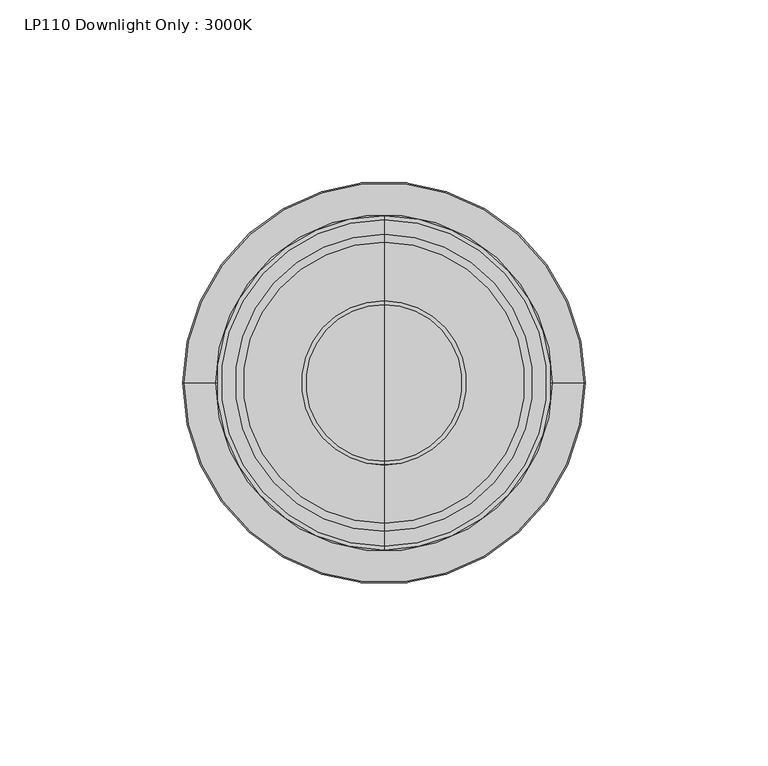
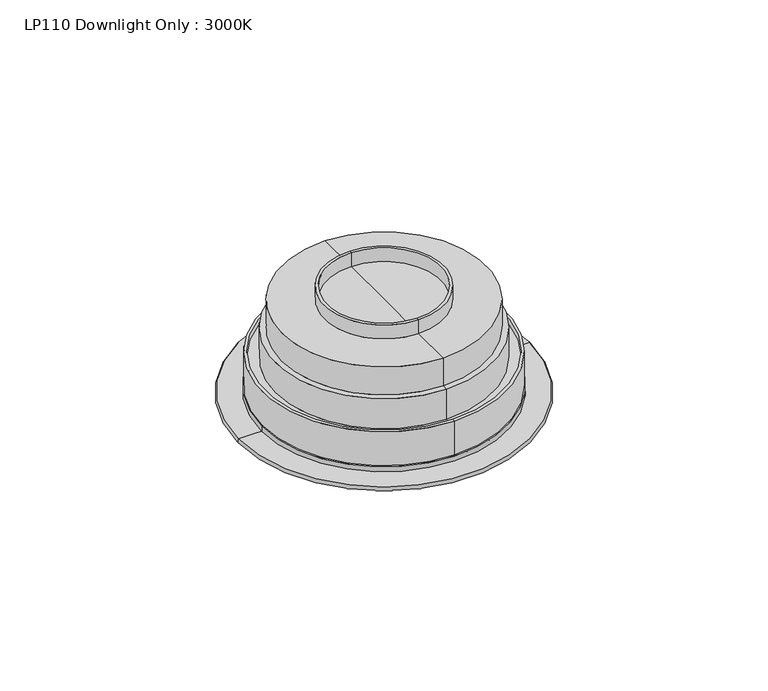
"""IFC4 building model written with IfcOpenShell, lengths in millimetres: light fixture geometry, LP110 Downlight Only : 3000K."""

from ifc_helpers import new_model, si_unit, point, frame, frame_2d, origin, place, context, project, spatial, polyline, circle_curve, ellipse_curve, trimmed, segment, composite_curve, outline, extrude, source, transform, mapped, element, save
from ifc_brep_helpers import plane_surface, cylinder_surface, revolved_surface, advanced_brep


def lp110_downlight_only_3000k_c44f5da2(model_context):
    return source(origin(), model_context, "Body", "SolidModel", [
        advanced_brep(
        [(-29.2658904, 0.0, 4000.0), (29.2658904, 0.0, 4000.0), (29.2658904, 0.0, 3994.9814753), (-29.2658904, 0.0, 3994.9814753), (0.0, 0.0, 4000.0), (-28.5744152, 0.0, 3994.29), (28.5744152, 0.0, 3994.29), (0.0, 0.0, 3994.29)],
        [
            (0, 1, circle_curve(frame((0.0, 0.0, 4000.0), z_axis=(0.0, 0.0, -1.0), x_axis=(1.0, 0.0, 0.0)), 29.2658904)),
            (1, 2),
            (2, 3, circle_curve(frame((0.0, 0.0, 3994.9814753), z_axis=(0.0, 0.0, 1.0), x_axis=(1.0, 0.0, 0.0)), 29.2658904)),
            (3, 0),
            (1, 0, circle_curve(frame((0.0, 0.0, 4000.0), z_axis=(0.0, 0.0, -1.0), x_axis=(1.0, 0.0, 0.0)), 29.2658904)),
            (3, 2, circle_curve(frame((0.0, 0.0, 3994.9814753), z_axis=(0.0, 0.0, 1.0), x_axis=(1.0, 0.0, 0.0)), 29.2658904)),
            (4, 1),
            (0, 4),
            (5, 6, circle_curve(frame((0.0, 0.0, 3994.29), z_axis=(0.0, 0.0, -1.0), x_axis=(1.0, 0.0, 0.0)), 28.5744152)),
            (6, 7),
            (7, 5),
            (6, 5, circle_curve(frame((0.0, 0.0, 3994.29), z_axis=(0.0, 0.0, -1.0), x_axis=(1.0, 0.0, 0.0)), 28.5744152)),
            (2, 6, circle_curve(frame((28.5744152, 0.0, 3994.9814753), z_axis=(0.0, 1.0, 0.0), x_axis=(1.0, 0.0, 0.0)), 0.6914753)),
            (5, 3, circle_curve(frame((-28.5744152, 0.0, 3994.9814753), z_axis=(0.0, 1.0, 0.0), x_axis=(-1.0, 0.0, 0.0)), 0.6914753)),
        ],
        [
            cylinder_surface(frame((0.0, 0.0, 4324.4347907), z_axis=(0.0, 0.0, 1.0), x_axis=(1.0, 0.0, 0.0)), 29.2658904),
            plane_surface(frame((0.0, 0.0, 4000.0), z_axis=(0.0, 0.0, 1.0), x_axis=(1.0, 0.0, 0.0))),
            plane_surface(frame((0.0, 0.0, 3994.29), z_axis=(0.0, 0.0, -1.0), x_axis=(1.0, 0.0, 0.0))),
            revolved_surface(trimmed(ellipse_curve(frame((28.5744152, 0.0, 3994.9814753), z_axis=(0.0, -1.0, 0.0), x_axis=(1.0, 0.0, 0.0)), 0.6914753, 0.6914753), [point((28.5744152, 0.0, 3994.29))], [point((29.2658904, 0.0, 3994.9814753))], True, "CARTESIAN"), (0.0, 0.0, 4324.4347907), (0.0, 0.0, 1.0)),
        ],
        [
            (0, [[1, 2, 3, 4]]),
            (0, [[5, -4, 6, -2]]),
            (1, [[7, -1, 8]]),
            (1, [[-8, -5, -7]]),
            (2, [[9, 10, 11]]),
            (2, [[12, -11, -10]]),
            (3, [[-3, 13, -9, 14]]),
            (3, [[-6, -14, -12, -13]]),
        ],
    ),
        extrude(outline(composite_curve([segment(trimmed(circle_curve(frame_2d((0.153956, -0.1564231)), 40.0), [point((-39.846044, -0.1564231))], [point((40.153956, -0.1564231))], False, "CARTESIAN"), True, "CONTINUOUS"), segment(trimmed(circle_curve(frame_2d((0.153956, -0.1564231)), 40.0), [point((40.153956, -0.1564231))], [point((-39.846044, -0.1564231))], False, "CARTESIAN"), True, "CONTINUOUS")], self_intersect=False), holes=[composite_curve([segment(trimmed(circle_curve(frame_2d((0.153956, -0.1564231)), 29.1123547), [point((-28.9583987, -0.1564231))], [point((29.2663107, -0.1564231))], True, "CARTESIAN"), True, "CONTINUOUS"), segment(trimmed(circle_curve(frame_2d((0.153956, -0.1564231)), 29.1123547), [point((29.2663107, -0.1564231))], [point((-28.9583987, -0.1564231))], True, "CARTESIAN"), True, "CONTINUOUS")], self_intersect=False)]), frame((0.0, 0.0, 3994.29), z_axis=(0.0, 0.0, 1.0), x_axis=(1.0, 0.0, 0.0)), (0.0, 0.0, 1.0), 0.5),
        advanced_brep(
        [(-46.0, 0.0, 4000.0), (46.0, 0.0, 4000.0), (0.0, 0.0, 4000.0), (-46.0, 0.0, 4001.88), (46.0, 0.0, 4001.88), (0.0, 0.0, 4001.88)],
        [
            (0, 1, circle_curve(frame((0.0, 0.0, 4000.0), z_axis=(0.0, 0.0, -1.0), x_axis=(1.0, 0.0, 0.0)), 46.0)),
            (1, 2),
            (2, 0),
            (1, 0, circle_curve(frame((0.0, 0.0, 4000.0), z_axis=(0.0, 0.0, -1.0), x_axis=(1.0, 0.0, 0.0)), 46.0)),
            (3, 4, circle_curve(frame((0.0, 0.0, 4001.88), z_axis=(0.0, 0.0, -1.0), x_axis=(1.0, 0.0, 0.0)), 46.0)),
            (4, 1),
            (0, 3),
            (4, 3, circle_curve(frame((0.0, 0.0, 4001.88), z_axis=(0.0, 0.0, -1.0), x_axis=(1.0, 0.0, 0.0)), 46.0)),
            (5, 4),
            (3, 5),
        ],
        [
            plane_surface(frame((0.0, 0.0, 4000.0), z_axis=(0.0, 0.0, -1.0), x_axis=(1.0, 0.0, 0.0))),
            cylinder_surface(frame((0.0, 0.0, 3993.7591953), z_axis=(0.0, 0.0, 1.0), x_axis=(1.0, 0.0, 0.0)), 46.0),
            plane_surface(frame((0.0, 0.0, 4001.88), z_axis=(0.0, 0.0, 1.0), x_axis=(1.0, 0.0, 0.0))),
        ],
        [
            (0, [[1, 2, 3]]),
            (0, [[4, -3, -2]]),
            (1, [[5, 6, -1, 7]]),
            (1, [[8, -7, -4, -6]]),
            (2, [[9, -5, 10]]),
            (2, [[-10, -8, -9]]),
        ],
    ),
        advanced_brep(
        [(-54.4320431, 0.0, 3998.2898924), (54.4320431, 0.0, 3998.2898924), (47.8497028, 0.0, 3994.79), (-47.8497028, 0.0, 3994.79), (-54.7151231, 0.0, 4000.0), (54.7151231, 0.0, 4000.0), (-26.7465724, 0.0, 4000.0), (26.7465724, 0.0, 4000.0), (26.7465724, 0.0, 3994.79), (-26.7465724, 0.0, 3994.79)],
        [
            (0, 1, circle_curve(frame((0.0, 0.0, 3998.2898924), z_axis=(0.0, 0.0, -1.0), x_axis=(1.0, 0.0, 0.0)), 54.4320431)),
            (1, 2),
            (2, 3, circle_curve(frame((0.0, 0.0, 3994.79), z_axis=(0.0, 0.0, 1.0), x_axis=(1.0, 0.0, 0.0)), 47.8497028)),
            (3, 0),
            (1, 0, circle_curve(frame((0.0, 0.0, 3998.2898924), z_axis=(0.0, 0.0, -1.0), x_axis=(1.0, 0.0, 0.0)), 54.4320431)),
            (3, 2, circle_curve(frame((0.0, 0.0, 3994.79), z_axis=(0.0, 0.0, 1.0), x_axis=(1.0, 0.0, 0.0)), 47.8497028)),
            (4, 5, circle_curve(frame((0.0, 0.0, 4000.0), z_axis=(0.0, 0.0, -1.0), x_axis=(1.0, 0.0, 0.0)), 54.7151231)),
            (5, 1, circle_curve(frame((53.9198655, 0.0, 3999.2531583), z_axis=(0.0, 1.0, 0.0), x_axis=(1.0, 0.0, 0.0)), 1.0909661)),
            (0, 4, circle_curve(frame((-53.9198655, 0.0, 3999.2531583), z_axis=(0.0, 1.0, 0.0), x_axis=(-1.0, 0.0, 0.0)), 1.0909661)),
            (5, 4, circle_curve(frame((0.0, 0.0, 4000.0), z_axis=(0.0, 0.0, -1.0), x_axis=(1.0, 0.0, 0.0)), 54.7151231)),
            (6, 7, circle_curve(frame((0.0, 0.0, 4000.0), z_axis=(0.0, 0.0, -1.0), x_axis=(1.0, 0.0, 0.0)), 26.7465724)),
            (7, 5),
            (4, 6),
            (7, 6, circle_curve(frame((0.0, 0.0, 4000.0), z_axis=(0.0, 0.0, -1.0), x_axis=(1.0, 0.0, 0.0)), 26.7465724)),
            (2, 8),
            (8, 9, circle_curve(frame((0.0, 0.0, 3994.79), z_axis=(0.0, 0.0, 1.0), x_axis=(1.0, 0.0, 0.0)), 26.7465724)),
            (9, 3),
            (9, 8, circle_curve(frame((0.0, 0.0, 3994.79), z_axis=(0.0, 0.0, 1.0), x_axis=(1.0, 0.0, 0.0)), 26.7465724)),
            (8, 7),
            (6, 9),
        ],
        [
            revolved_surface(polyline([(47.8497028, 0.0, 3994.79), (54.4320431, 0.0, 3998.2898924)]), (0.0, 0.0, 4324.4347907), (0.0, 0.0, 1.0)),
            revolved_surface(trimmed(ellipse_curve(frame((53.9198655, 0.0, 3999.2531583), z_axis=(0.0, -1.0, 0.0), x_axis=(1.0, 0.0, 0.0)), 1.0909661, 1.0909661), [point((54.4320431, 0.0, 3998.2898924))], [point((54.7151231, 0.0, 4000.0))], True, "CARTESIAN"), (0.0, 0.0, 4324.4347907), (0.0, 0.0, 1.0)),
            plane_surface(frame((0.0, 0.0, 4000.0), z_axis=(0.0, 0.0, 1.0), x_axis=(1.0, 0.0, 0.0))),
            plane_surface(frame((0.0, 0.0, 3994.79), z_axis=(0.0, 0.0, -1.0), x_axis=(1.0, 0.0, 0.0))),
            revolved_surface(polyline([(26.7465724, 0.0, 4000.0), (26.7465724, 0.0, 3994.79)]), (0.0, 0.0, 4324.4347907), (0.0, 0.0, 1.0)),
        ],
        [
            (0, [[1, 2, 3, 4]]),
            (0, [[5, -4, 6, -2]]),
            (1, [[7, 8, -1, 9]]),
            (1, [[10, -9, -5, -8]]),
            (2, [[11, 12, -7, 13]]),
            (2, [[14, -13, -10, -12]]),
            (3, [[-3, 15, 16, 17]]),
            (3, [[-6, -17, 18, -15]]),
            (4, [[-16, 19, -11, 20]]),
            (4, [[-18, -20, -14, -19]]),
        ],
    ),
        advanced_brep(
        [(0.0, 38.41986, 4025.2200055), (0.0, -38.41986, 4025.2200055), (0.0, -38.41986, 4036.27), (0.0, 38.41986, 4036.27), (0.0, 40.6278014, 4025.2200055), (0.0, -40.6278014, 4025.2200055), (0.0, 40.6278014, 4013.3214017), (0.0, -40.6278014, 4013.3214017), (0.0, 44.6302193, 4013.3214017), (0.0, -44.6302193, 4013.3214017), (0.0, 44.6302193, 4015.63), (0.0, -44.6302193, 4015.63), (0.0, 45.6921331, 4015.63), (0.0, -45.6921331, 4015.63), (0.0, 45.6921331, 4000.0), (0.0, -45.6921331, 4000.0), (0.0, 0.0, 4000.0), (0.0, -22.4510975, 4036.27), (0.0, 22.4510975, 4036.27), (0.0, 21.4345521, 4036.27), (0.0, -21.4345521, 4036.27), (0.0, 0.0, 4036.27), (0.0, 21.4345521, 4041.77), (0.0, -21.4345521, 4041.77), (0.0, 22.4510975, 4041.77), (0.0, -22.4510975, 4041.77)],
        [
            (0, 1, circle_curve(frame((0.0, 0.0, 4025.2200055), z_axis=(0.0, 0.0, 1.0), x_axis=(0.0, -1.0, 0.0)), 38.41986)),
            (1, 2),
            (2, 3, circle_curve(frame((0.0, 0.0, 4036.27), z_axis=(0.0, 0.0, -1.0), x_axis=(0.0, -1.0, 0.0)), 38.41986)),
            (3, 0),
            (1, 0, circle_curve(frame((0.0, 0.0, 4025.2200055), z_axis=(0.0, 0.0, 1.0), x_axis=(0.0, -1.0, 0.0)), 38.41986)),
            (3, 2, circle_curve(frame((0.0, 0.0, 4036.27), z_axis=(0.0, 0.0, -1.0), x_axis=(0.0, -1.0, 0.0)), 38.41986)),
            (4, 5, circle_curve(frame((0.0, 0.0, 4025.2200055), z_axis=(0.0, 0.0, 1.0), x_axis=(0.0, -1.0, 0.0)), 40.6278014)),
            (5, 1),
            (0, 4),
            (5, 4, circle_curve(frame((0.0, 0.0, 4025.2200055), z_axis=(0.0, 0.0, 1.0), x_axis=(0.0, -1.0, 0.0)), 40.6278014)),
            (6, 7, circle_curve(frame((0.0, 0.0, 4013.3214017), z_axis=(0.0, 0.0, 1.0), x_axis=(0.0, -1.0, 0.0)), 40.6278014)),
            (7, 5),
            (4, 6),
            (7, 6, circle_curve(frame((0.0, 0.0, 4013.3214017), z_axis=(0.0, 0.0, 1.0), x_axis=(0.0, -1.0, 0.0)), 40.6278014)),
            (8, 9, circle_curve(frame((0.0, 0.0, 4013.3214017), z_axis=(0.0, 0.0, 1.0), x_axis=(0.0, -1.0, 0.0)), 44.6302193)),
            (9, 7),
            (6, 8),
            (9, 8, circle_curve(frame((0.0, 0.0, 4013.3214017), z_axis=(0.0, 0.0, 1.0), x_axis=(0.0, -1.0, 0.0)), 44.6302193)),
            (10, 11, circle_curve(frame((0.0, 0.0, 4015.63), z_axis=(0.0, 0.0, 1.0), x_axis=(0.0, -1.0, 0.0)), 44.6302193)),
            (11, 9),
            (8, 10),
            (11, 10, circle_curve(frame((0.0, 0.0, 4015.63), z_axis=(0.0, 0.0, 1.0), x_axis=(0.0, -1.0, 0.0)), 44.6302193)),
            (12, 13, circle_curve(frame((0.0, 0.0, 4015.63), z_axis=(0.0, 0.0, 1.0), x_axis=(0.0, -1.0, 0.0)), 45.6921331)),
            (13, 11),
            (10, 12),
            (13, 12, circle_curve(frame((0.0, 0.0, 4015.63), z_axis=(0.0, 0.0, 1.0), x_axis=(0.0, -1.0, 0.0)), 45.6921331)),
            (14, 15, circle_curve(frame((0.0, 0.0, 4000.0), z_axis=(0.0, 0.0, 1.0), x_axis=(0.0, -1.0, 0.0)), 45.6921331)),
            (15, 13),
            (12, 14),
            (15, 14, circle_curve(frame((0.0, 0.0, 4000.0), z_axis=(0.0, 0.0, 1.0), x_axis=(0.0, -1.0, 0.0)), 45.6921331)),
            (16, 15),
            (14, 16),
            (2, 17),
            (17, 18, circle_curve(frame((0.0, 0.0, 4036.27), z_axis=(0.0, 0.0, -1.0), x_axis=(0.0, -1.0, 0.0)), 22.4510975)),
            (18, 3),
            (18, 17, circle_curve(frame((0.0, 0.0, 4036.27), z_axis=(0.0, 0.0, -1.0), x_axis=(0.0, -1.0, 0.0)), 22.4510975)),
            (19, 20, circle_curve(frame((0.0, 0.0, 4036.27), z_axis=(0.0, 0.0, 1.0), x_axis=(0.0, -1.0, 0.0)), 21.4345521)),
            (20, 21),
            (21, 19),
            (20, 19, circle_curve(frame((0.0, 0.0, 4036.27), z_axis=(0.0, 0.0, 1.0), x_axis=(0.0, -1.0, 0.0)), 21.4345521)),
            (22, 23, circle_curve(frame((0.0, 0.0, 4041.77), z_axis=(0.0, 0.0, 1.0), x_axis=(0.0, -1.0, 0.0)), 21.4345521)),
            (23, 20),
            (19, 22),
            (23, 22, circle_curve(frame((0.0, 0.0, 4041.77), z_axis=(0.0, 0.0, 1.0), x_axis=(0.0, -1.0, 0.0)), 21.4345521)),
            (24, 25, circle_curve(frame((0.0, 0.0, 4041.77), z_axis=(0.0, 0.0, 1.0), x_axis=(0.0, -1.0, 0.0)), 22.4510975)),
            (25, 23),
            (22, 24),
            (25, 24, circle_curve(frame((0.0, 0.0, 4041.77), z_axis=(0.0, 0.0, 1.0), x_axis=(0.0, -1.0, 0.0)), 22.4510975)),
            (17, 25),
            (24, 18),
        ],
        [
            cylinder_surface(frame((0.0, 0.0, 4369.9206714), z_axis=(0.0, 0.0, -1.0), x_axis=(0.0, -1.0, 0.0)), 38.41986),
            plane_surface(frame((0.0, 0.0, 4025.2200055), z_axis=(0.0, 0.0, 1.0), x_axis=(0.0, -1.0, 0.0))),
            cylinder_surface(frame((0.0, 0.0, 4369.9206714), z_axis=(0.0, 0.0, -1.0), x_axis=(0.0, -1.0, 0.0)), 40.6278014),
            plane_surface(frame((0.0, 0.0, 4013.3214017), z_axis=(0.0, 0.0, 1.0), x_axis=(0.0, -1.0, 0.0))),
            revolved_surface(polyline([(0.0, -44.6302193, 4013.3214017), (0.0, -44.6302193, 4015.63)]), (0.0, 0.0, 4369.9206714), (0.0, 0.0, -1.0)),
            plane_surface(frame((0.0, 0.0, 4015.63), z_axis=(0.0, 0.0, 1.0), x_axis=(0.0, -1.0, 0.0))),
            cylinder_surface(frame((0.0, 0.0, 4369.9206714), z_axis=(0.0, 0.0, -1.0), x_axis=(0.0, -1.0, 0.0)), 45.6921331),
            plane_surface(frame((0.0, 0.0, 4000.0), z_axis=(0.0, 0.0, -1.0), x_axis=(0.0, -1.0, 0.0))),
            plane_surface(frame((0.0, 0.0, 4036.27), z_axis=(0.0, 0.0, 1.0), x_axis=(0.0, -1.0, 0.0))),
            revolved_surface(polyline([(0.0, -21.4345521, 4036.27), (0.0, -21.4345521, 4041.77)]), (0.0, 0.0, 4369.9206714), (0.0, 0.0, -1.0)),
            plane_surface(frame((0.0, 0.0, 4041.77), z_axis=(0.0, 0.0, 1.0), x_axis=(0.0, -1.0, 0.0))),
            cylinder_surface(frame((0.0, 0.0, 4369.9206714), z_axis=(0.0, 0.0, -1.0), x_axis=(0.0, -1.0, 0.0)), 22.4510975),
        ],
        [
            (0, [[1, 2, 3, 4]]),
            (0, [[5, -4, 6, -2]]),
            (1, [[7, 8, -1, 9]]),
            (1, [[10, -9, -5, -8]]),
            (2, [[11, 12, -7, 13]]),
            (2, [[14, -13, -10, -12]]),
            (3, [[15, 16, -11, 17]]),
            (3, [[18, -17, -14, -16]]),
            (4, [[19, 20, -15, 21]]),
            (4, [[22, -21, -18, -20]]),
            (5, [[23, 24, -19, 25]]),
            (5, [[26, -25, -22, -24]]),
            (6, [[27, 28, -23, 29]]),
            (6, [[30, -29, -26, -28]]),
            (7, [[31, -27, 32]]),
            (7, [[-32, -30, -31]]),
            (8, [[-3, 33, 34, 35]]),
            (8, [[-6, -35, 36, -33]]),
            (8, [[37, 38, 39]]),
            (8, [[40, -39, -38]]),
            (9, [[41, 42, -37, 43]]),
            (9, [[44, -43, -40, -42]]),
            (10, [[45, 46, -41, 47]]),
            (10, [[48, -47, -44, -46]]),
            (11, [[-34, 49, -45, 50]]),
            (11, [[-36, -50, -48, -49]]),
        ],
    ),
        advanced_brep(
        [(0.0, 45.5019222, 4000.0), (0.0, -45.5019222, 4000.0), (0.0, 0.0, 4000.0), (0.0, 46.154328, 3998.87), (0.0, -46.154328, 3998.87), (0.0, 0.0, 3998.87)],
        [
            (0, 1, circle_curve(frame((0.0, 0.0, 4000.0), z_axis=(0.0, 0.0, 1.0), x_axis=(0.0, -1.0, 0.0)), 45.5019222)),
            (1, 2),
            (2, 0),
            (1, 0, circle_curve(frame((0.0, 0.0, 4000.0), z_axis=(0.0, 0.0, 1.0), x_axis=(0.0, -1.0, 0.0)), 45.5019222)),
            (3, 4, circle_curve(frame((0.0, 0.0, 3998.87), z_axis=(0.0, 0.0, 1.0), x_axis=(0.0, -1.0, 0.0)), 46.154328)),
            (4, 1, circle_curve(frame((0.0, -46.2918945, 3999.7027574), z_axis=(1.0, 0.0, 0.0), x_axis=(0.0, -1.0, 0.0)), 0.8440435)),
            (0, 3, circle_curve(frame((0.0, 46.2918945, 3999.7027574), z_axis=(1.0, 0.0, 0.0), x_axis=(0.0, 1.0, 0.0)), 0.8440435)),
            (4, 3, circle_curve(frame((0.0, 0.0, 3998.87), z_axis=(0.0, 0.0, 1.0), x_axis=(0.0, -1.0, 0.0)), 46.154328)),
            (5, 4),
            (3, 5),
        ],
        [
            plane_surface(frame((0.0, 0.0, 4000.0), z_axis=(0.0, 0.0, 1.0), x_axis=(0.0, -1.0, 0.0))),
            revolved_surface(trimmed(ellipse_curve(frame((0.0, -46.2918945, 3999.7027574), z_axis=(-1.0, 0.0, 0.0), x_axis=(0.0, -1.0, 0.0)), 0.8440435, 0.8440435), [point((0.0, -45.5019222, 4000.0))], [point((0.0, -46.154328, 3998.87))], True, "CARTESIAN"), (0.0, 0.0, 4284.4582372), (0.0, 0.0, -1.0)),
            plane_surface(frame((0.0, 0.0, 3998.87), z_axis=(0.0, 0.0, -1.0), x_axis=(0.0, -1.0, 0.0))),
        ],
        [
            (0, [[1, 2, 3]]),
            (0, [[4, -3, -2]]),
            (1, [[5, 6, -1, 7]]),
            (1, [[8, -7, -4, -6]]),
            (2, [[9, -5, 10]]),
            (2, [[-10, -8, -9]]),
        ],
    ),
    ])


if __name__ == "__main__":
    model = new_model("IFC4")
    model_context = context("Model", 3, world=origin())
    ifc_project = project(units=[si_unit("LENGTHUNIT", "METRE", prefix="MILLI")], contexts=[model_context])
    site = spatial("IfcSite", under=ifc_project)
    building = spatial("IfcBuilding", under=site)
    placement = place(None, origin())
    lp110_downlight_only_3000k_shape = lp110_downlight_only_3000k_c44f5da2(model_context)
    element("IfcLightFixture", 1, ObjectType="LP110 Downlight Only : 3000K", at=placement, inside=building, context=model_context, shape_type="MappedRepresentation", body=[
        mapped(lp110_downlight_only_3000k_shape, transform((0.0, 0.0, 0.0), x_axis=(1.0, 0.0, 0.0), y_axis=(0.0, 1.0, 0.0), z_axis=(0.0, 0.0, 1.0))),
    ])
    save(model, "model.ifc")
